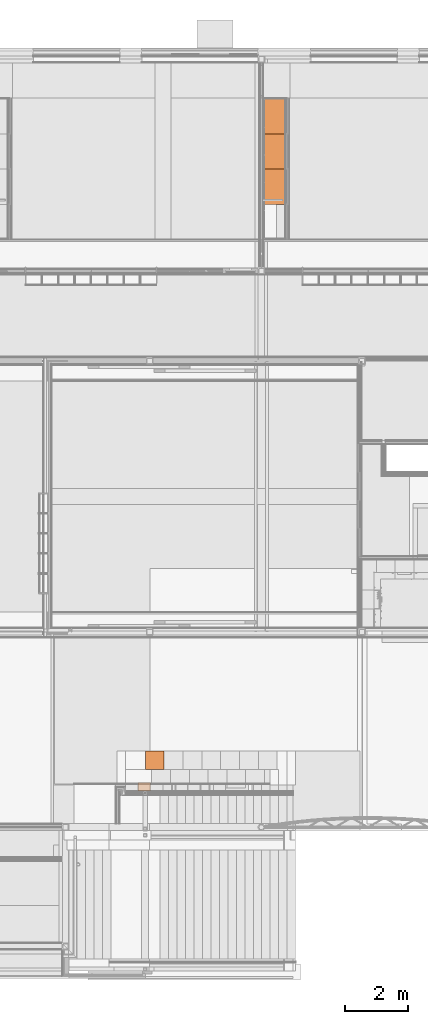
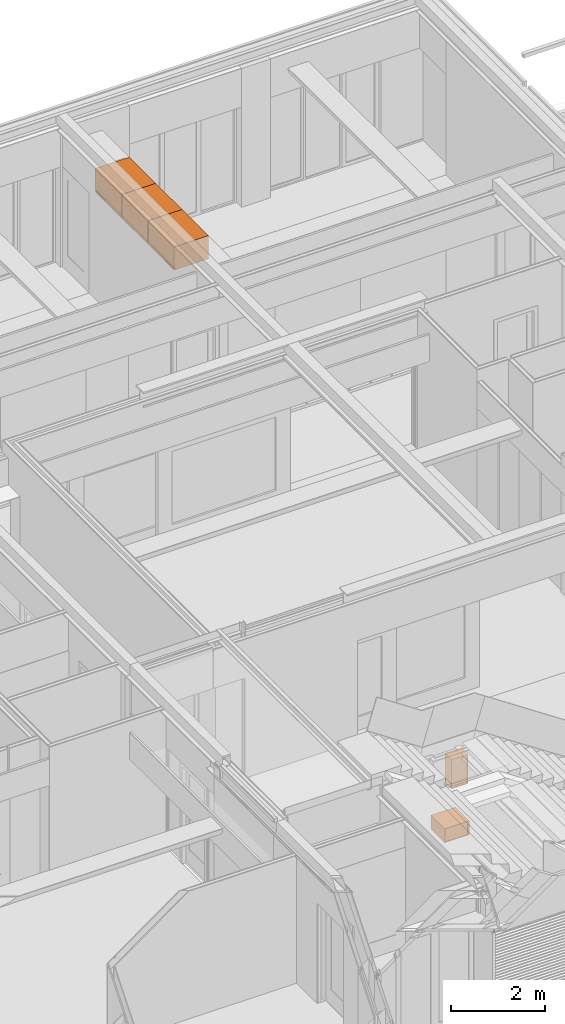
# One storey, part 160 of 165: 5 proxies.
"""IFC2X3 building model written with IfcOpenShell, lengths in millimetres."""

from ifc_helpers import new_model, entity, si_unit, converted_unit, derived_unit, money_unit, direction, frame, origin_with_axes, place, context, subcontext, project, spatial, faceted_brep, type_object, element, save


model = new_model("IFC2X3")

# Units and contexts
model_context = context("Model", 3, precision=0.01, world=origin_with_axes(), true_north=direction((0.0, 1.0)))
body_context = subcontext(model_context, "Body", "Model", "MODEL_VIEW")
ifc_project = project(units=[si_unit("LENGTHUNIT", "METRE", prefix="MILLI"), si_unit("AREAUNIT", "SQUARE_METRE"), si_unit("VOLUMEUNIT", "CUBIC_METRE"), converted_unit("PLANEANGLEUNIT", "DEGREE", entity("IfcPlaneAngleMeasure", 0.0174532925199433), si_unit("PLANEANGLEUNIT", "RADIAN"), dimensions=[0, 0, 0, 0, 0, 0, 0]), money_unit("EUR"), converted_unit("TIMEUNIT", "Year", entity("IfcTimeMeasure", 31556926.0), si_unit("TIMEUNIT", "SECOND"), dimensions=[0, 0, 1, 0, 0, 0, 0]), si_unit("MASSUNIT", "GRAM", prefix="KILO"), si_unit("THERMODYNAMICTEMPERATUREUNIT", "DEGREE_CELSIUS"), si_unit("LUMINOUSINTENSITYUNIT", "LUMEN"), si_unit("ENERGYUNIT", "JOULE", prefix="MEGA"), derived_unit("THERMALCONDUCTANCEUNIT", [(si_unit("POWERUNIT", "WATT"), 1), (si_unit("LENGTHUNIT", "METRE"), -1), (si_unit("THERMODYNAMICTEMPERATUREUNIT", "KELVIN"), -1)]), derived_unit("SPECIFICHEATCAPACITYUNIT", [(si_unit("ENERGYUNIT", "JOULE"), 1), (si_unit("MASSUNIT", "GRAM", prefix="KILO"), -1), (si_unit("THERMODYNAMICTEMPERATUREUNIT", "KELVIN"), -1)]), derived_unit("MASSDENSITYUNIT", [(si_unit("MASSUNIT", "GRAM", prefix="KILO"), 1), (si_unit("VOLUMEUNIT", "CUBIC_METRE"), -1)])], contexts=[model_context])

# Site, building, storey
site_placement = place(None, origin_with_axes())
site = spatial("IfcSite", under=ifc_project, at=site_placement, Name="Site", CompositionType="ELEMENT")
building_placement = place(site_placement, origin_with_axes())
building = spatial("IfcBuilding", under=site, at=building_placement, Name="Naam gebouw", CompositionType="ELEMENT")
storey_placement = place(building_placement, origin_with_axes())
storey = spatial("IfcBuildingStorey", under=building, at=storey_placement, Name="Begane grond", CompositionType="ELEMENT", Elevation=0.0)

# Proxies
building_element_proxy_type = type_object("IfcBuildingElementProxyType", Name="Onderkast recht 26", PredefinedType="NOTDEFINED")
proxy_1_placement = place(storey_placement, frame((14000.00001687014, 6430.000292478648, 0.0), z_axis=(0.0, 0.0, 1.0), x_axis=(-1.0, 0.0, 0.0)))
element("IfcBuildingElementProxy", 1, at=proxy_1_placement, inside=storey, type_object=building_element_proxy_type, Name="_Leeg", context=body_context, shape_type="Brep", body=[
    faceted_brep([(0.0, -590.0, 310.0), (0.0, -590.0, 360.0), (-600.0, -590.0, 360.0), (-600.0, -590.0, 310.0), (0.0, 0.0, 310.0), (0.0, 0.0, 360.0), (-600.0, 0.0, 360.0), (-600.0, 0.0, 310.0)], [[[0, 1, 2, 3]], [[4, 5, 1, 0]], [[1, 5, 6, 2]], [[3, 2, 6, 7]], [[0, 3, 7, 4]], [[7, 6, 5, 4]]]),
    faceted_brep([(-558.9999999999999, -572.0, 23.0), (-558.9999999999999, -18.00000000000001, 23.0), (-23.0, -18.00000000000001, 23.0), (-23.0, -572.0, 23.0), (-558.9999999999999, -572.0, 33.0), (-558.9999999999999, -18.00000000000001, 33.0), (-23.0, -18.00000000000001, 33.0), (-23.0, -572.0, 33.0)], [[[0, 1, 2, 3]], [[0, 4, 5, 1]], [[1, 5, 6, 2]], [[2, 6, 7, 3]], [[3, 7, 4, 0]], [[7, 6, 5, 4]]]),
    faceted_brep([(-43.0, -572.0, 33.0), (-43.0, -18.00000000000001, 33.0), (-23.0, -18.00000000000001, 33.0), (-23.0, -572.0, 33.0), (-43.0, -572.0, 286.9999999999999), (-43.0, -18.00000000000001, 286.9999999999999), (-23.0, -18.00000000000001, 286.9999999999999), (-23.0, -572.0, 286.9999999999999)], [[[0, 1, 2, 3]], [[0, 4, 5, 1]], [[1, 5, 6, 2]], [[2, 6, 7, 3]], [[3, 7, 4, 0]], [[7, 6, 5, 4]]]),
    faceted_brep([(-558.9999999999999, -572.0, 33.0), (-558.9999999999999, -18.00000000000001, 33.0), (-538.9999999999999, -18.00000000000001, 33.0), (-538.9999999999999, -572.0, 33.0), (-558.9999999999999, -572.0, 286.9999999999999), (-558.9999999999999, -18.00000000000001, 286.9999999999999), (-538.9999999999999, -18.00000000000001, 286.9999999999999), (-538.9999999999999, -572.0, 286.9999999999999)], [[[0, 1, 2, 3]], [[0, 4, 5, 1]], [[1, 5, 6, 2]], [[2, 6, 7, 3]], [[3, 7, 4, 0]], [[7, 6, 5, 4]]]),
    faceted_brep([(-538.9999999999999, -33.00000000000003, 33.0), (-538.9999999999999, -23.00000000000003, 33.0), (-43.0, -23.00000000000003, 33.0), (-43.0, -33.00000000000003, 33.0), (-538.9999999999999, -33.00000000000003, 286.9999999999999), (-538.9999999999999, -23.00000000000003, 286.9999999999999), (-43.0, -23.00000000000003, 286.9999999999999), (-43.0, -33.00000000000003, 286.9999999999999)], [[[0, 1, 2, 3]], [[0, 4, 5, 1]], [[1, 5, 6, 2]], [[2, 6, 7, 3]], [[3, 7, 4, 0]], [[7, 6, 5, 4]]]),
    faceted_brep([(-599.0, -590.0, 1.000000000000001), (-1.000000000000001, -590.0, 1.000000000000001), (-1.000000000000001, -590.0, 309.0), (-599.0, -590.0, 309.0), (-328.190778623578, -590.0, 240.26060429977), (-325.9807621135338, -590.0, 244.9999999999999), (-322.9813332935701, -590.0, 249.2836282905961), (-319.2836282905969, -590.0, 252.9813332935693), (-315.0000000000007, -590.0, 255.9807621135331), (-310.2606042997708, -590.0, 258.1907786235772), (-305.2094453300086, -590.0, 259.5442325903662), (-300.0000000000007, -590.0, 260.0), (-294.7905546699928, -590.0, 259.5442325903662), (-289.7393957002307, -590.0, 258.1907786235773), (-285.0000000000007, -590.0, 255.9807621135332), (-280.7163717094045, -590.0, 252.9813332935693), (-277.0186667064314, -590.0, 249.2836282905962), (-274.0192378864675, -590.0, 245.0), (-271.8092213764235, -590.0, 240.2606042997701), (-270.4557674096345, -590.0, 235.2094453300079), (-270.0000000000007, -590.0, 230.0), (-270.4557674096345, -590.0, 224.7905546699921), (-271.8092213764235, -590.0, 219.7393957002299), (-274.0192378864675, -590.0, 215.0), (-277.0186667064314, -590.0, 210.7163717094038), (-280.7163717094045, -590.0, 207.0186667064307), (-285.0000000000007, -590.0, 204.0192378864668), (-289.7393957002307, -590.0, 201.8092213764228), (-294.7905546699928, -590.0, 200.4557674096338), (-300.0000000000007, -590.0, 200.0), (-305.2094453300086, -590.0, 200.4557674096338), (-310.2606042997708, -590.0, 201.8092213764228), (-315.0000000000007, -590.0, 204.0192378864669), (-319.2836282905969, -590.0, 207.0186667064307), (-322.9813332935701, -590.0, 210.7163717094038), (-325.9807621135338, -590.0, 215.0), (-328.190778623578, -590.0, 219.7393957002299), (-329.5442325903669, -590.0, 224.7905546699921), (-330.0000000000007, -590.0, 230.0), (-329.5442325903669, -590.0, 235.2094453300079), (-599.0, -572.0, 1.000000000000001), (-1.000000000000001, -572.0, 1.000000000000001), (-1.000000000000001, -572.0, 309.0), (-599.0, -572.0, 309.0), (-325.9807621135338, -572.0, 244.9999999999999), (-328.190778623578, -572.0, 240.26060429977), (-322.9813332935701, -572.0, 249.2836282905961), (-319.2836282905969, -572.0, 252.9813332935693), (-315.0000000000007, -572.0, 255.9807621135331), (-310.2606042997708, -572.0, 258.1907786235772), (-305.2094453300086, -572.0, 259.5442325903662), (-300.0000000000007, -572.0, 260.0), (-294.7905546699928, -572.0, 259.5442325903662), (-289.7393957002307, -572.0, 258.1907786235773), (-285.0000000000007, -572.0, 255.9807621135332), (-280.7163717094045, -572.0, 252.9813332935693), (-277.0186667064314, -572.0, 249.2836282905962), (-274.0192378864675, -572.0, 245.0), (-271.8092213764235, -572.0, 240.2606042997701), (-270.4557674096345, -572.0, 235.2094453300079), (-270.0000000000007, -572.0, 230.0), (-270.4557674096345, -572.0, 224.7905546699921), (-271.8092213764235, -572.0, 219.7393957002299), (-274.0192378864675, -572.0, 215.0), (-277.0186667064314, -572.0, 210.7163717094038), (-280.7163717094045, -572.0, 207.0186667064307), (-285.0000000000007, -572.0, 204.0192378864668), (-289.7393957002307, -572.0, 201.8092213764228), (-294.7905546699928, -572.0, 200.4557674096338), (-300.0000000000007, -572.0, 200.0), (-305.2094453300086, -572.0, 200.4557674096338), (-310.2606042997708, -572.0, 201.8092213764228), (-315.0000000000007, -572.0, 204.0192378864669), (-319.2836282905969, -572.0, 207.0186667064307), (-322.9813332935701, -572.0, 210.7163717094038), (-325.9807621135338, -572.0, 215.0), (-328.190778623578, -572.0, 219.7393957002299), (-329.5442325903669, -572.0, 224.7905546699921), (-330.0000000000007, -572.0, 230.0), (-329.5442325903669, -572.0, 235.2094453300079)], [[[0, 1, 2, 3], [4, 5, 6, 7, 8, 9, 10, 11, 12, 13, 14, 15, 16, 17, 18, 19, 20, 21, 22, 23, 24, 25, 26, 27, 28, 29, 30, 31, 32, 33, 34, 35, 36, 37, 38, 39]], [[40, 41, 1, 0]], [[41, 42, 2, 1]], [[42, 43, 3, 2]], [[43, 40, 0, 3]], [[44, 5, 4, 45]], [[46, 6, 5, 44]], [[47, 7, 6, 46]], [[48, 8, 7, 47]], [[49, 9, 8, 48]], [[50, 10, 9, 49]], [[51, 11, 10, 50]], [[52, 12, 11, 51]], [[53, 13, 12, 52]], [[54, 14, 13, 53]], [[55, 15, 14, 54]], [[56, 16, 15, 55]], [[57, 17, 16, 56]], [[58, 18, 17, 57]], [[59, 19, 18, 58]], [[60, 20, 19, 59]], [[61, 21, 20, 60]], [[62, 22, 21, 61]], [[63, 23, 22, 62]], [[64, 24, 23, 63]], [[65, 25, 24, 64]], [[66, 26, 25, 65]], [[67, 27, 26, 66]], [[68, 28, 27, 67]], [[69, 29, 28, 68]], [[70, 30, 29, 69]], [[71, 31, 30, 70]], [[72, 32, 31, 71]], [[73, 33, 32, 72]], [[74, 34, 33, 73]], [[75, 35, 34, 74]], [[76, 36, 35, 75]], [[77, 37, 36, 76]], [[78, 38, 37, 77]], [[79, 39, 38, 78]], [[45, 4, 39, 79]], [[42, 41, 40, 43], [76, 75, 74, 73, 72, 71, 70, 69, 68, 67, 66, 65, 64, 63, 62, 61, 60, 59, 58, 57, 56, 55, 54, 53, 52, 51, 50, 49, 48, 47, 46, 44, 45, 79, 78, 77]]]),
    faceted_brep([(-582.0, -571.0, 1.0), (-600.0, -571.0, 1.000000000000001), (-600.0, -1.000000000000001, 1.000000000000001), (-582.0, -1.000000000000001, 1.0), (-582.0, -571.0, 309.0), (-600.0, -571.0, 309.0), (-600.0, -1.000000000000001, 309.0), (-582.0, -1.000000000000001, 309.0)], [[[0, 1, 2, 3]], [[4, 5, 1, 0]], [[1, 5, 6, 2]], [[3, 2, 6, 7]], [[0, 3, 7, 4]], [[7, 6, 5, 4]]]),
    faceted_brep([(-18.0, -572.0, 0.0), (-18.0, -572.0, 18.0), (-564.0, -572.0, 18.0), (-564.0, -572.0, 0.0), (-18.0, 0.0, 0.0), (-18.0, 0.0, 18.0), (-564.0, 0.0, 18.0), (-564.0, 0.0, 0.0)], [[[0, 1, 2, 3]], [[4, 5, 1, 0]], [[1, 5, 6, 2]], [[3, 2, 6, 7]], [[0, 3, 7, 4]], [[7, 6, 5, 4]]]),
    faceted_brep([(-18.0, -572.0, 292.0), (-564.0, -572.0, 292.0), (-564.0, -512.0, 292.0), (-18.0, -512.0, 292.0), (-18.0, -572.0, 310.0), (-564.0, -572.0, 310.0), (-564.0, -512.0, 310.0), (-18.0, -512.0, 310.0)], [[[0, 1, 2, 3]], [[4, 5, 1, 0]], [[1, 5, 6, 2]], [[3, 2, 6, 7]], [[0, 3, 7, 4]], [[7, 6, 5, 4]]]),
    faceted_brep([(-564.0, 0.0, 292.0), (-18.0, 0.0, 292.0), (-18.0, -60.0, 292.0), (-564.0, -60.0, 292.0), (-564.0, 0.0, 310.0), (-18.0, 0.0, 310.0), (-18.0, -60.0, 310.0), (-564.0, -60.0, 310.0)], [[[0, 1, 2, 3]], [[4, 5, 1, 0]], [[1, 5, 6, 2]], [[3, 2, 6, 7]], [[0, 3, 7, 4]], [[7, 6, 5, 4]]]),
    faceted_brep([(0.0, 0.0, 0.0), (0.0, 0.0, 310.0), (0.0, -572.0, 310.0), (0.0, -572.0, 0.0), (-18.0, 0.0, 0.0), (-18.0, 0.0, 310.0), (-18.0, -572.0, 310.0), (-18.0, -572.0, 0.0)], [[[0, 1, 2, 3]], [[4, 5, 1, 0]], [[1, 5, 6, 2]], [[3, 2, 6, 7]], [[0, 3, 7, 4]], [[7, 6, 5, 4]]]),
    faceted_brep([(-582.0, -572.0, 0.0), (-582.0, -572.0, 310.0), (-582.0, 0.0, 310.0), (-582.0, 0.0, 0.0), (-564.0, -572.0, 0.0), (-564.0, -572.0, 310.0), (-564.0, 0.0, 310.0), (-564.0, 0.0, 0.0)], [[[0, 1, 2, 3]], [[4, 5, 1, 0]], [[1, 5, 6, 2]], [[3, 2, 6, 7]], [[0, 3, 7, 4]], [[7, 6, 5, 4]]]),
    faceted_brep([(-564.0, -9.0, 18.0), (-564.0, -9.0, 292.0000000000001), (-18.00000000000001, -9.0, 292.0000000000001), (-18.00000000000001, -9.0, 18.0), (-564.0, -18.0, 18.0), (-564.0, -18.0, 292.0000000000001), (-18.00000000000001, -18.0, 292.0000000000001), (-18.00000000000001, -18.0, 18.0)], [[[0, 1, 2, 3]], [[4, 5, 1, 0]], [[1, 5, 6, 2]], [[3, 2, 6, 7]], [[0, 3, 7, 4]], [[7, 6, 5, 4]]]),
])
proxy_2_placement = place(storey_placement, frame((17762.49942456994, 26687.99970566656, 2600.0), z_axis=(0.0, 0.0, 1.0), x_axis=(0.0, 1.0, 0.0)))
element("IfcBuildingElementProxy", 2, at=proxy_2_placement, inside=storey, type_object=building_element_proxy_type, Name="_Leeg", context=body_context, shape_type="Brep", body=[
    faceted_brep([(-1102.000141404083, -1.999999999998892, 17.99999999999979), (-18.00000000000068, -1.999999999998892, 17.99999999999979), (-18.00000000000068, 0.0, 17.99999999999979), (-1102.000141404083, 0.0, 17.99999999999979), (-18.00000000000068, -1.999999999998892, 0.0), (-1102.000141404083, -1.999999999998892, 0.0), (-18.00000000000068, 0.0, 0.0), (-1102.000141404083, 0.0, 0.0)], [[[0, 1, 2, 3]], [[4, 1, 0, 5]], [[1, 4, 6, 2]], [[6, 7, 3, 2]], [[5, 0, 3, 7]], [[4, 5, 7, 6]]]),
    faceted_brep([(-1102.000141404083, -18.00000000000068, 69.9999999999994), (-18.00000000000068, -18.00000000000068, 69.9999999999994), (-18.00000000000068, -18.00000000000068, 581.9999999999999), (-1102.000141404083, -18.00000000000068, 581.9999999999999), (-18.00000000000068, -9.000000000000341, 69.9999999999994), (-1102.000141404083, -9.000000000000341, 69.9999999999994), (-18.00000000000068, -9.000000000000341, 581.9999999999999), (-1102.000141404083, -9.000000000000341, 581.9999999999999)], [[[0, 1, 2, 3]], [[4, 1, 0, 5]], [[1, 4, 6, 2]], [[6, 7, 3, 2]], [[5, 0, 3, 7]], [[4, 5, 7, 6]]]),
    faceted_brep([(-1102.000141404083, -826.9999999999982, 581.9999999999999), (-18.00000000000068, -826.9999999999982, 581.9999999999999), (-18.00000000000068, -826.9999999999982, 600.0000000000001), (-1102.000141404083, -826.9999999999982, 600.0000000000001), (-18.00000000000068, 0.0, 581.9999999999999), (-1102.000141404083, 0.0, 581.9999999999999), (-18.00000000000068, 0.0, 600.0000000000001), (-1102.000141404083, 0.0, 600.0000000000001)], [[[0, 1, 2, 3]], [[4, 1, 0, 5]], [[1, 4, 6, 2]], [[3, 2, 6, 7]], [[5, 0, 3, 7]], [[4, 5, 7, 6]]]),
    faceted_brep([(0.0, -1.999999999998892, 69.9999999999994), (0.0, -1.999999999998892, 0.0), (0.0, 0.0, 0.0), (0.0, 0.0, 600.0000000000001), (0.0, -826.9999999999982, 600.0000000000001), (0.0, -826.9999999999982, 0.0), (0.0, -21.99999999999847, 0.0), (0.0, -21.99999999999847, 69.9999999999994), (-18.00000000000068, -1.999999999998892, 69.9999999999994), (-18.00000000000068, -1.999999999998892, 0.0), (-18.00000000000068, 0.0, 0.0), (-18.00000000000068, 0.0, 600.0000000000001), (-18.00000000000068, -826.9999999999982, 600.0000000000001), (-18.00000000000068, -826.9999999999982, 0.0), (-18.00000000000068, -21.99999999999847, 0.0), (-18.00000000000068, -21.99999999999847, 69.9999999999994)], [[[0, 1, 2, 3, 4, 5, 6, 7]], [[1, 0, 8, 9]], [[1, 9, 10, 2]], [[2, 10, 11, 3]], [[4, 3, 11, 12]], [[13, 5, 4, 12]], [[14, 6, 5, 13]], [[7, 6, 14, 15]], [[0, 7, 15, 8]], [[15, 14, 13, 12, 11, 10, 9, 8]]]),
    faceted_brep([(-1102.000141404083, -1.999999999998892, 69.9999999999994), (-1102.000141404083, -1.999999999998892, 0.0), (-1102.000141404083, 0.0, 0.0), (-1102.000141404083, 0.0, 600.0000000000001), (-1102.000141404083, -826.9999999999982, 600.0000000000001), (-1102.000141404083, -826.9999999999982, 0.0), (-1102.000141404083, -21.99999999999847, 0.0), (-1102.000141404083, -21.99999999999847, 69.9999999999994), (-1120.000141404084, -1.999999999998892, 69.9999999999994), (-1120.000141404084, -1.999999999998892, 0.0), (-1120.000141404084, 0.0, 0.0), (-1120.000141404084, 0.0, 600.0000000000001), (-1120.000141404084, -826.9999999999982, 600.0000000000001), (-1120.000141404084, -826.9999999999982, 0.0), (-1120.000141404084, -21.99999999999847, 0.0), (-1120.000141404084, -21.99999999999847, 69.9999999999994)], [[[0, 1, 2, 3, 4, 5, 6, 7]], [[1, 0, 8, 9]], [[1, 9, 10, 2]], [[2, 10, 11, 3]], [[11, 12, 4, 3]], [[13, 5, 4, 12]], [[14, 6, 5, 13]], [[7, 6, 14, 15]], [[0, 7, 15, 8]], [[15, 14, 13, 12, 11, 10, 9, 8]]]),
    faceted_brep([(-18.00000000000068, -21.99999999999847, 0.0), (-18.00000000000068, -21.99999999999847, 17.99999999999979), (-18.00000000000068, -826.9999999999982, 17.99999999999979), (-18.00000000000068, -826.9999999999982, 0.0), (-1102.000141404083, -21.99999999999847, 17.99999999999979), (-1102.000141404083, -21.99999999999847, 0.0), (-1102.000141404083, -826.9999999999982, 17.99999999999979), (-1102.000141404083, -826.9999999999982, 0.0)], [[[0, 1, 2, 3]], [[4, 1, 0, 5]], [[1, 4, 6, 2]], [[7, 3, 2, 6]], [[5, 0, 3, 7]], [[4, 5, 7, 6]]]),
    faceted_brep([(-1.000000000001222, -826.9999999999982, 0.9999999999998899), (-1.000000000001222, -844.9999999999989, 0.9999999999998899), (-1119.000141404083, -844.9999999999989, 0.9999999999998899), (-1119.000141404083, -826.9999999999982, 0.9999999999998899), (-1.000000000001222, -826.9999999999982, 598.9999999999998), (-1.000000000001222, -844.9999999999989, 598.9999999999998), (-1119.000141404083, -844.9999999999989, 598.9999999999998), (-1119.000141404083, -826.9999999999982, 598.9999999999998)], [[[0, 1, 2, 3]], [[4, 5, 1, 0]], [[1, 5, 6, 2]], [[3, 2, 6, 7]], [[0, 3, 7, 4]], [[7, 6, 5, 4]]]),
])
proxy_3_placement = place(storey_placement, frame((14167.57015574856, 5729.997304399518, 1902.0), z_axis=(0.0, 0.0, 1.0), x_axis=(-1.0, 0.0, 0.0)))
element("IfcBuildingElementProxy", 3, at=proxy_3_placement, inside=storey, type_object=building_element_proxy_type, Name="_Leeg", context=body_context, shape_type="Brep", body=[
    faceted_brep([(18.0, -280.0000000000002, 400.0), (391.0000000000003, -280.0000000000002, 400.0), (391.0000000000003, -280.0000000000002, 418.0000000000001), (18.0, -280.0000000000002, 418.0000000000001), (18.0, -18.0, 400.0), (391.0000000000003, -18.0, 400.0), (391.0000000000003, -18.0, 418.0000000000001), (18.0, -18.0, 418.0000000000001)], [[[0, 1, 2, 3]], [[0, 4, 5, 1]], [[1, 5, 6, 2]], [[3, 2, 6, 7]], [[4, 0, 3, 7]], [[5, 4, 7, 6]]]),
    faceted_brep([(18.0, -280.0000000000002, 0.0), (391.0000000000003, -280.0000000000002, 0.0), (391.0000000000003, -280.0000000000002, 18.0), (18.0, -280.0000000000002, 18.0), (18.0, 0.0, 0.0), (391.0000000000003, 0.0, 0.0), (391.0000000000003, 0.0, 18.0), (18.0, 0.0, 18.0)], [[[0, 1, 2, 3]], [[0, 4, 5, 1]], [[1, 5, 6, 2]], [[3, 2, 6, 7]], [[4, 0, 3, 7]], [[5, 4, 7, 6]]]),
    faceted_brep([(18.0, -280.0000000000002, 742.9999999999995), (391.0000000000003, -280.0000000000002, 742.9999999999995), (391.0000000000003, -280.0000000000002, 760.9999999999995), (18.0, -280.0000000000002, 760.9999999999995), (18.0, 0.0, 742.9999999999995), (391.0000000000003, 0.0, 742.9999999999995), (391.0000000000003, 0.0, 760.9999999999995), (18.0, 0.0, 760.9999999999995)], [[[0, 1, 2, 3]], [[0, 4, 5, 1]], [[1, 5, 6, 2]], [[3, 2, 6, 7]], [[4, 0, 3, 7]], [[5, 4, 7, 6]]]),
    faceted_brep([(0.0, 0.0, 0.0), (0.0, -280.0000000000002, 0.0), (0.0, -280.0000000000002, 760.9999999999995), (0.0, 0.0, 760.9999999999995), (18.0, 0.0, 0.0), (18.0, -280.0000000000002, 0.0), (18.0, -280.0000000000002, 760.9999999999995), (18.0, 0.0, 760.9999999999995)], [[[0, 1, 2, 3]], [[0, 4, 5, 1]], [[1, 5, 6, 2]], [[3, 2, 6, 7]], [[4, 0, 3, 7]], [[5, 4, 7, 6]]]),
    faceted_brep([(409.0000000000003, -280.0000000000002, 0.0), (409.0000000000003, 0.0, 0.0), (409.0000000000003, 0.0, 760.9999999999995), (409.0000000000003, -280.0000000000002, 760.9999999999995), (391.0000000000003, -280.0000000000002, 0.0), (391.0000000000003, 0.0, 0.0), (391.0000000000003, 0.0, 760.9999999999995), (391.0000000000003, -280.0000000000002, 760.9999999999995)], [[[0, 1, 2, 3]], [[0, 4, 5, 1]], [[1, 5, 6, 2]], [[3, 2, 6, 7]], [[4, 0, 3, 7]], [[5, 4, 7, 6]]]),
    faceted_brep([(391.0000000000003, -9.0, 18.0), (18.00000000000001, -9.0, 18.0), (18.00000000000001, -9.0, 742.9999999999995), (391.0000000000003, -9.0, 742.9999999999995), (391.0000000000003, -18.0, 18.0), (18.00000000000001, -18.0, 18.0), (18.00000000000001, -18.0, 742.9999999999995), (391.0000000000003, -18.0, 742.9999999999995)], [[[0, 1, 2, 3]], [[0, 4, 5, 1]], [[1, 5, 6, 2]], [[3, 2, 6, 7]], [[4, 0, 3, 7]], [[5, 4, 7, 6]]]),
])
proxy_4_placement = place(storey_placement, frame((17762.49942456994, 25567.99956426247, 2600.0), z_axis=(0.0, 0.0, 1.0), x_axis=(0.0, 1.0, 0.0)))
element("IfcBuildingElementProxy", 4, at=proxy_4_placement, inside=storey, type_object=building_element_proxy_type, Name="_Leeg", context=body_context, shape_type="Brep", body=[
    faceted_brep([(-1102.000141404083, -1.999999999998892, 17.99999999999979), (-18.00000000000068, -1.999999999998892, 17.99999999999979), (-18.00000000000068, 0.0, 17.99999999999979), (-1102.000141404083, 0.0, 17.99999999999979), (-18.00000000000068, -1.999999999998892, 0.0), (-1102.000141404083, -1.999999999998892, 0.0), (-18.00000000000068, 0.0, 0.0), (-1102.000141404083, 0.0, 0.0)], [[[0, 1, 2, 3]], [[4, 1, 0, 5]], [[1, 4, 6, 2]], [[6, 7, 3, 2]], [[5, 0, 3, 7]], [[4, 5, 7, 6]]]),
    faceted_brep([(-1102.000141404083, -18.00000000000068, 69.9999999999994), (-18.00000000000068, -18.00000000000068, 69.9999999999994), (-18.00000000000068, -18.00000000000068, 581.9999999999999), (-1102.000141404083, -18.00000000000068, 581.9999999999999), (-18.00000000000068, -9.000000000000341, 69.9999999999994), (-1102.000141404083, -9.000000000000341, 69.9999999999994), (-18.00000000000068, -9.000000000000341, 581.9999999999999), (-1102.000141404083, -9.000000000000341, 581.9999999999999)], [[[0, 1, 2, 3]], [[4, 1, 0, 5]], [[1, 4, 6, 2]], [[6, 7, 3, 2]], [[5, 0, 3, 7]], [[4, 5, 7, 6]]]),
    faceted_brep([(-1102.000141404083, -826.9999999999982, 581.9999999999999), (-18.00000000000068, -826.9999999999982, 581.9999999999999), (-18.00000000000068, -826.9999999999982, 600.0000000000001), (-1102.000141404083, -826.9999999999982, 600.0000000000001), (-18.00000000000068, 0.0, 581.9999999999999), (-1102.000141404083, 0.0, 581.9999999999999), (-18.00000000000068, 0.0, 600.0000000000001), (-1102.000141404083, 0.0, 600.0000000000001)], [[[0, 1, 2, 3]], [[4, 1, 0, 5]], [[1, 4, 6, 2]], [[3, 2, 6, 7]], [[5, 0, 3, 7]], [[4, 5, 7, 6]]]),
    faceted_brep([(0.0, -1.999999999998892, 69.9999999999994), (0.0, -1.999999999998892, 0.0), (0.0, 0.0, 0.0), (0.0, 0.0, 600.0000000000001), (0.0, -826.9999999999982, 600.0000000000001), (0.0, -826.9999999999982, 0.0), (0.0, -21.99999999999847, 0.0), (0.0, -21.99999999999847, 69.9999999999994), (-18.00000000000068, -1.999999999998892, 69.9999999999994), (-18.00000000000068, -1.999999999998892, 0.0), (-18.00000000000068, 0.0, 0.0), (-18.00000000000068, 0.0, 600.0000000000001), (-18.00000000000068, -826.9999999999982, 600.0000000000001), (-18.00000000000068, -826.9999999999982, 0.0), (-18.00000000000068, -21.99999999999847, 0.0), (-18.00000000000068, -21.99999999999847, 69.9999999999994)], [[[0, 1, 2, 3, 4, 5, 6, 7]], [[1, 0, 8, 9]], [[1, 9, 10, 2]], [[2, 10, 11, 3]], [[4, 3, 11, 12]], [[13, 5, 4, 12]], [[14, 6, 5, 13]], [[7, 6, 14, 15]], [[0, 7, 15, 8]], [[15, 14, 13, 12, 11, 10, 9, 8]]]),
    faceted_brep([(-1102.000141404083, -1.999999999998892, 69.9999999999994), (-1102.000141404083, -1.999999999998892, 0.0), (-1102.000141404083, 0.0, 0.0), (-1102.000141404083, 0.0, 600.0000000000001), (-1102.000141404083, -826.9999999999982, 600.0000000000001), (-1102.000141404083, -826.9999999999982, 0.0), (-1102.000141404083, -21.99999999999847, 0.0), (-1102.000141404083, -21.99999999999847, 69.9999999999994), (-1120.000141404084, -1.999999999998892, 69.9999999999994), (-1120.000141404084, -1.999999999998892, 0.0), (-1120.000141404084, 0.0, 0.0), (-1120.000141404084, 0.0, 600.0000000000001), (-1120.000141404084, -826.9999999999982, 600.0000000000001), (-1120.000141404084, -826.9999999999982, 0.0), (-1120.000141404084, -21.99999999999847, 0.0), (-1120.000141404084, -21.99999999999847, 69.9999999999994)], [[[0, 1, 2, 3, 4, 5, 6, 7]], [[1, 0, 8, 9]], [[1, 9, 10, 2]], [[2, 10, 11, 3]], [[11, 12, 4, 3]], [[13, 5, 4, 12]], [[14, 6, 5, 13]], [[7, 6, 14, 15]], [[0, 7, 15, 8]], [[15, 14, 13, 12, 11, 10, 9, 8]]]),
    faceted_brep([(-18.00000000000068, -21.99999999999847, 0.0), (-18.00000000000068, -21.99999999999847, 17.99999999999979), (-18.00000000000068, -826.9999999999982, 17.99999999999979), (-18.00000000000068, -826.9999999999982, 0.0), (-1102.000141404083, -21.99999999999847, 17.99999999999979), (-1102.000141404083, -21.99999999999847, 0.0), (-1102.000141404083, -826.9999999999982, 17.99999999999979), (-1102.000141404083, -826.9999999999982, 0.0)], [[[0, 1, 2, 3]], [[4, 1, 0, 5]], [[1, 4, 6, 2]], [[7, 3, 2, 6]], [[5, 0, 3, 7]], [[4, 5, 7, 6]]]),
    faceted_brep([(-1.000000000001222, -826.9999999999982, 0.9999999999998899), (-1.000000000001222, -844.9999999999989, 0.9999999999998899), (-1119.000141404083, -844.9999999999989, 0.9999999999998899), (-1119.000141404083, -826.9999999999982, 0.9999999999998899), (-1.000000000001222, -826.9999999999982, 598.9999999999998), (-1.000000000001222, -844.9999999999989, 598.9999999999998), (-1119.000141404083, -844.9999999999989, 598.9999999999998), (-1119.000141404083, -826.9999999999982, 598.9999999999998)], [[[0, 1, 2, 3]], [[4, 5, 1, 0]], [[1, 5, 6, 2]], [[3, 2, 6, 7]], [[0, 3, 7, 4]], [[7, 6, 5, 4]]]),
])
proxy_5_placement = place(storey_placement, frame((17762.49942456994, 27807.99984707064, 2600.0), z_axis=(0.0, 0.0, 1.0), x_axis=(0.0, 1.0, 0.0)))
element("IfcBuildingElementProxy", 5, at=proxy_5_placement, inside=storey, type_object=building_element_proxy_type, Name="_Leeg", context=body_context, shape_type="Brep", body=[
    faceted_brep([(-1102.000141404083, -1.999999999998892, 17.99999999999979), (-18.00000000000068, -1.999999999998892, 17.99999999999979), (-18.00000000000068, 0.0, 17.99999999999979), (-1102.000141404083, 0.0, 17.99999999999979), (-18.00000000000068, -1.999999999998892, 0.0), (-1102.000141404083, -1.999999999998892, 0.0), (-18.00000000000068, 0.0, 0.0), (-1102.000141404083, 0.0, 0.0)], [[[0, 1, 2, 3]], [[4, 1, 0, 5]], [[1, 4, 6, 2]], [[6, 7, 3, 2]], [[5, 0, 3, 7]], [[4, 5, 7, 6]]]),
    faceted_brep([(-1102.000141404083, -18.00000000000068, 69.9999999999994), (-18.00000000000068, -18.00000000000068, 69.9999999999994), (-18.00000000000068, -18.00000000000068, 581.9999999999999), (-1102.000141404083, -18.00000000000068, 581.9999999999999), (-18.00000000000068, -9.000000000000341, 69.9999999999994), (-1102.000141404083, -9.000000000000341, 69.9999999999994), (-18.00000000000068, -9.000000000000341, 581.9999999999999), (-1102.000141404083, -9.000000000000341, 581.9999999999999)], [[[0, 1, 2, 3]], [[4, 1, 0, 5]], [[1, 4, 6, 2]], [[6, 7, 3, 2]], [[5, 0, 3, 7]], [[4, 5, 7, 6]]]),
    faceted_brep([(-1102.000141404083, -826.9999999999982, 581.9999999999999), (-18.00000000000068, -826.9999999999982, 581.9999999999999), (-18.00000000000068, -826.9999999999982, 600.0000000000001), (-1102.000141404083, -826.9999999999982, 600.0000000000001), (-18.00000000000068, 0.0, 581.9999999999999), (-1102.000141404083, 0.0, 581.9999999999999), (-18.00000000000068, 0.0, 600.0000000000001), (-1102.000141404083, 0.0, 600.0000000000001)], [[[0, 1, 2, 3]], [[4, 1, 0, 5]], [[1, 4, 6, 2]], [[3, 2, 6, 7]], [[5, 0, 3, 7]], [[4, 5, 7, 6]]]),
    faceted_brep([(0.0, -1.999999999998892, 69.9999999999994), (0.0, -1.999999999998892, 0.0), (0.0, 0.0, 0.0), (0.0, 0.0, 600.0000000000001), (0.0, -826.9999999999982, 600.0000000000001), (0.0, -826.9999999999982, 0.0), (0.0, -21.99999999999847, 0.0), (0.0, -21.99999999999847, 69.9999999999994), (-18.00000000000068, -1.999999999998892, 69.9999999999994), (-18.00000000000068, -1.999999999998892, 0.0), (-18.00000000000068, 0.0, 0.0), (-18.00000000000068, 0.0, 600.0000000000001), (-18.00000000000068, -826.9999999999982, 600.0000000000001), (-18.00000000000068, -826.9999999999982, 0.0), (-18.00000000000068, -21.99999999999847, 0.0), (-18.00000000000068, -21.99999999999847, 69.9999999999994)], [[[0, 1, 2, 3, 4, 5, 6, 7]], [[1, 0, 8, 9]], [[1, 9, 10, 2]], [[2, 10, 11, 3]], [[4, 3, 11, 12]], [[13, 5, 4, 12]], [[14, 6, 5, 13]], [[7, 6, 14, 15]], [[0, 7, 15, 8]], [[15, 14, 13, 12, 11, 10, 9, 8]]]),
    faceted_brep([(-1102.000141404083, -1.999999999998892, 69.9999999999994), (-1102.000141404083, -1.999999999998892, 0.0), (-1102.000141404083, 0.0, 0.0), (-1102.000141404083, 0.0, 600.0000000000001), (-1102.000141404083, -826.9999999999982, 600.0000000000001), (-1102.000141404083, -826.9999999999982, 0.0), (-1102.000141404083, -21.99999999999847, 0.0), (-1102.000141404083, -21.99999999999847, 69.9999999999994), (-1120.000141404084, -1.999999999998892, 69.9999999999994), (-1120.000141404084, -1.999999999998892, 0.0), (-1120.000141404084, 0.0, 0.0), (-1120.000141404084, 0.0, 600.0000000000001), (-1120.000141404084, -826.9999999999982, 600.0000000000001), (-1120.000141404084, -826.9999999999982, 0.0), (-1120.000141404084, -21.99999999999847, 0.0), (-1120.000141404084, -21.99999999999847, 69.9999999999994)], [[[0, 1, 2, 3, 4, 5, 6, 7]], [[1, 0, 8, 9]], [[1, 9, 10, 2]], [[2, 10, 11, 3]], [[11, 12, 4, 3]], [[13, 5, 4, 12]], [[14, 6, 5, 13]], [[7, 6, 14, 15]], [[0, 7, 15, 8]], [[15, 14, 13, 12, 11, 10, 9, 8]]]),
    faceted_brep([(-18.00000000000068, -21.99999999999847, 0.0), (-18.00000000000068, -21.99999999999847, 17.99999999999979), (-18.00000000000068, -826.9999999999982, 17.99999999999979), (-18.00000000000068, -826.9999999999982, 0.0), (-1102.000141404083, -21.99999999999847, 17.99999999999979), (-1102.000141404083, -21.99999999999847, 0.0), (-1102.000141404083, -826.9999999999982, 17.99999999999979), (-1102.000141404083, -826.9999999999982, 0.0)], [[[0, 1, 2, 3]], [[4, 1, 0, 5]], [[1, 4, 6, 2]], [[7, 3, 2, 6]], [[5, 0, 3, 7]], [[4, 5, 7, 6]]]),
    faceted_brep([(-1.000000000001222, -826.9999999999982, 0.9999999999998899), (-1.000000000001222, -844.9999999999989, 0.9999999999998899), (-1119.000141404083, -844.9999999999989, 0.9999999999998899), (-1119.000141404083, -826.9999999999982, 0.9999999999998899), (-1.000000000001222, -826.9999999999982, 598.9999999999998), (-1.000000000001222, -844.9999999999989, 598.9999999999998), (-1119.000141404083, -844.9999999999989, 598.9999999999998), (-1119.000141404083, -826.9999999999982, 598.9999999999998)], [[[0, 1, 2, 3]], [[4, 5, 1, 0]], [[1, 5, 6, 2]], [[3, 2, 6, 7]], [[0, 3, 7, 4]], [[7, 6, 5, 4]]]),
])

save(model, "model.ifc")
